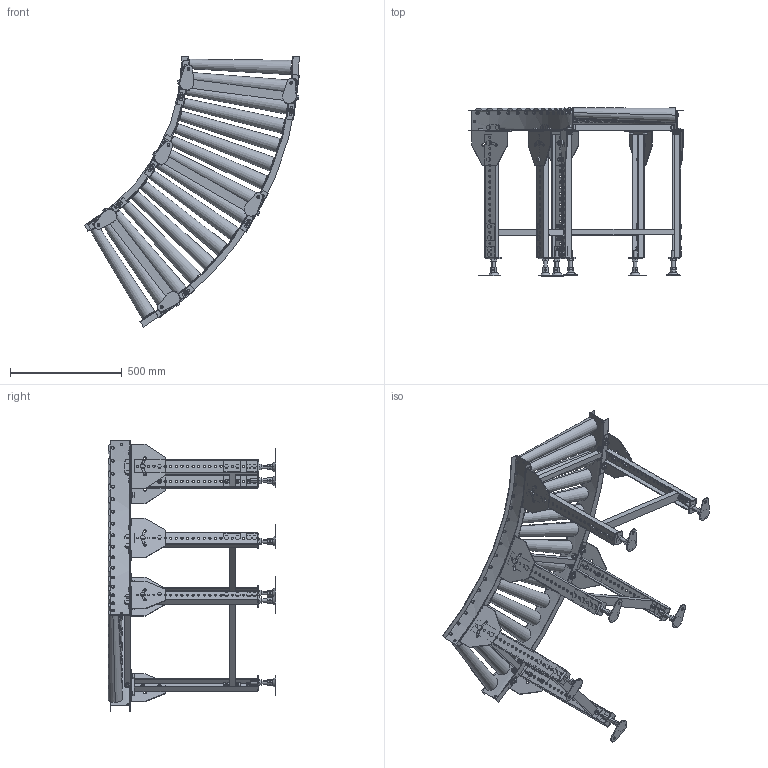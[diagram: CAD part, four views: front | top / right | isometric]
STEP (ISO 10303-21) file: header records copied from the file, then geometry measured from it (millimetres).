
FILE_DESCRIPTION (( 'STEP AP214' ), '1' );
FILE_NAME ('MRT-C9-450-75-60.STEP', '2022-09-28T01:59:31', ( '' ), ( '' ), 'SwSTEP 2.0', 'SolidWorks 2017', '' );
FILE_SCHEMA (( 'AUTOMOTIVE_DESIGN' ));
Length unit declared in the file: millimetre
Products named in the file (1): MRT-C9-450-75-60
Bounding box: 960 x 750 x 1208.11 mm (x, y, z)
Volume: 22417494.3 mm3; surface area: 3617867.5 mm2
Topology: 28 solids, 58 shells, 3218 faces, 7716 edges, 4856 vertices
Faces by surface type: plane 2298, cylinder 876, cone 44
Entity records: 135444 total; most frequent: CARTESIAN_POINT 22766, DIRECTION 16450, ORIENTED_EDGE 15432, EDGE_CURVE 7716, AXIS2_PLACEMENT_3D 5737, VECTOR 4976, LINE 4976, VERTEX_POINT 4856
